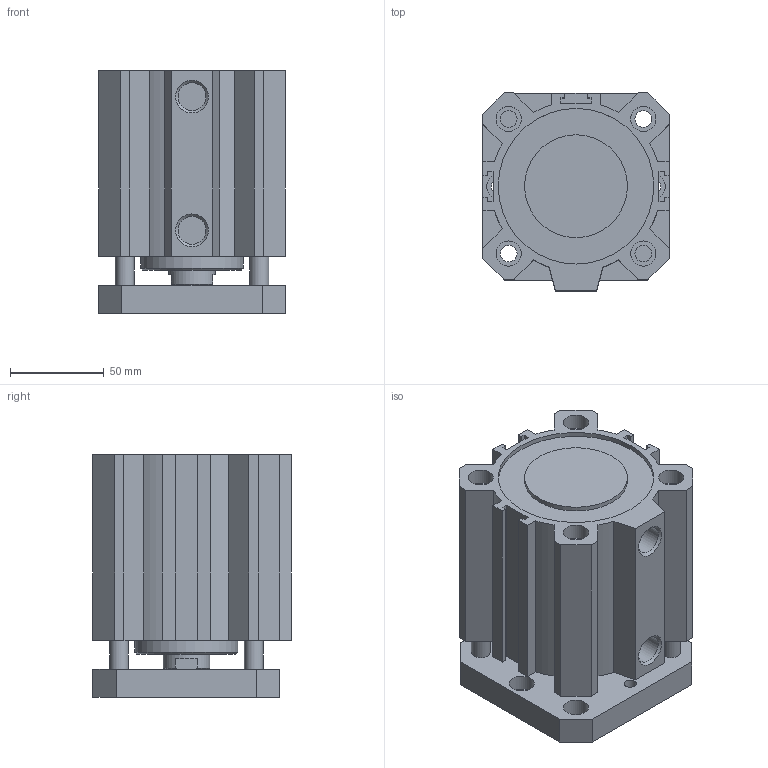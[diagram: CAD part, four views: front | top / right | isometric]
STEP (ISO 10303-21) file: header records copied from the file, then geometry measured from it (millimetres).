
FILE_DESCRIPTION(/* description */ (''),/* implementation_level */ '2;1');
FILE_NAME(/* name */ 'I:\Area Tecnica\Disegni\VARIE-3D\Componenti\1500\Ø80\15##_80_####_#\1501_80_0055_AR.stp',/* time_stamp */ '2016-08-24T14:12:52+02:00',/* author */ ('Maniean1'),/* organization */ ('Pneumax S.p.A.'),/* preprocessor_version */ 'ST-DEVELOPER v15.2',/* originating_system */ 'Autodesk Inventor 2014',/* authorisation */ '');
FILE_SCHEMA (('AUTOMOTIVE_DESIGN { 1 0 10303 214 3 1 1 }'));
Length unit declared in the file: millimetre
Products named in the file (3): C_1501_80_0055_AR; S_1501_80_0055_AR; 1501_80_0055_AR
Bounding box: 100 x 106 x 129.5 mm (x, y, z)
Volume: 717783.7 mm3; surface area: 167957.7 mm2
Topology: 2 solids, 2 shells, 139 faces, 341 edges, 228 vertices
Faces by surface type: plane 94, cylinder 40, cone 5
Full cylindrical faces by diameter (mm): 6.647 x2, 8.5 x2, 9 x4, 10 x4, 13.5 x10, 14.95 x2, 25 x2, 55 x2, 80 x2, 83.2 x2
Entity records: 4083 total; most frequent: CARTESIAN_POINT 674, DIRECTION 672, ORIENTED_EDGE 600, EDGE_CURVE 300, AXIS2_PLACEMENT_3D 232, VERTEX_POINT 222, EDGE_LOOP 216, LINE 208
